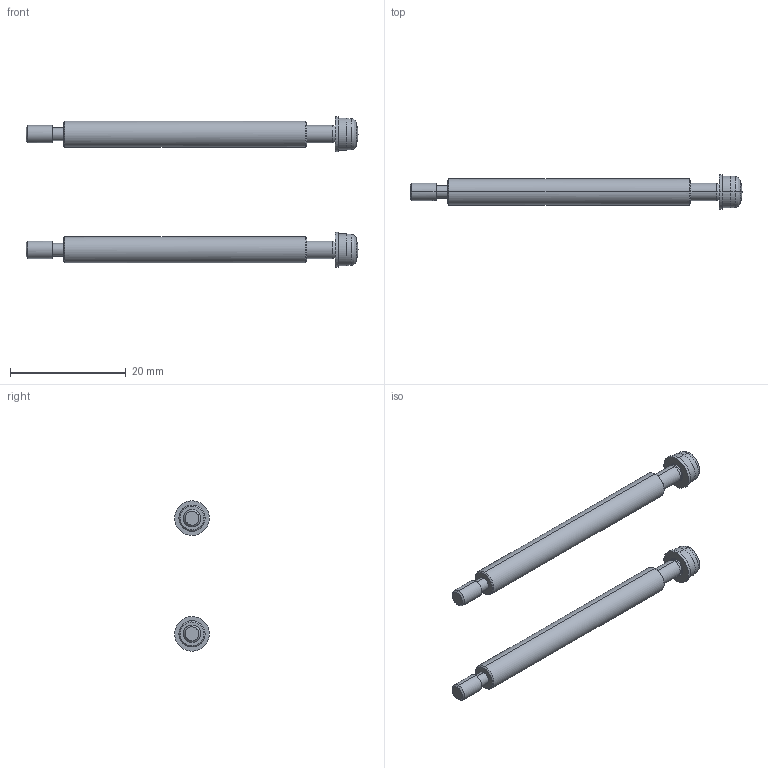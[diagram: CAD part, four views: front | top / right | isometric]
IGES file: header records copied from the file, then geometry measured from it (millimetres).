
Start section: ------------------------------------------------------------------------
Bounding box: 57.4 x 5.98 x 26 mm (x, y, z)
Volume: 1539.5 mm3; surface area: 1980.3 mm2
Topology: 4 solids, 4 shells, 94 faces, 188 edges, 108 vertices
Faces by surface type: bspline 94
